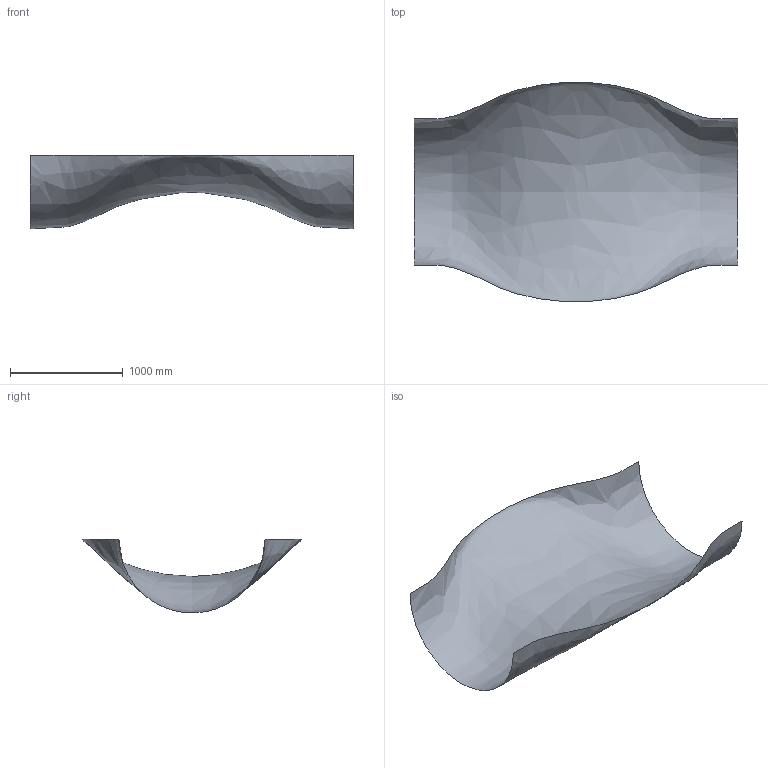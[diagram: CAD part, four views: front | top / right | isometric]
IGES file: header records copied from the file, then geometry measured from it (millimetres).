
Start section: IGES File generated by SURFCAM(Original from: SURFCAM)
Global section: file name: C:\test.igs; native system: SURFCAM VERSION 2005; preprocessor: DSN2IGS 2005; author: Knaapo, Div of Sukhoi Company; organization: No Author; date: 20060728.230338; units: millimetre
Bounding box: 2870.2 x 1945.95 x 653.85 mm (x, y, z)
Surface area: 6090463.5 mm2 (no closed solid volume)
Topology: 0 solids, 0 shells, 1 faces, 4 edges, 4 vertices
Faces by surface type: bspline 1
